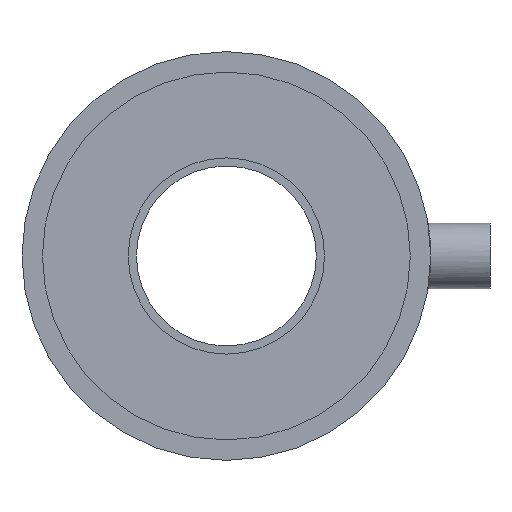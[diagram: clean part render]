
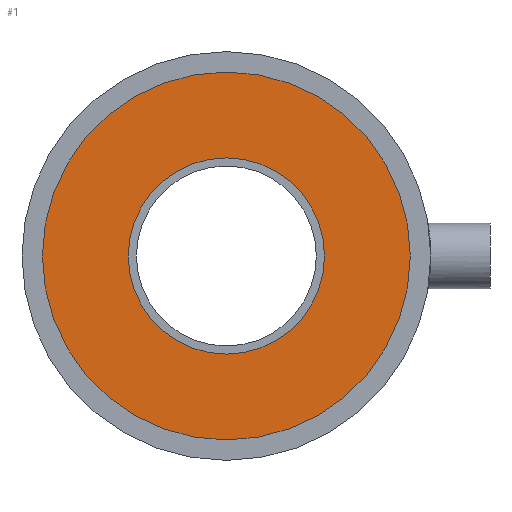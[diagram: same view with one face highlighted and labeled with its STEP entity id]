
A CAD part, front view. The second image highlights one B-rep face of the part: STEP entity #1.
In plain terms, the highlighted planar face has unit normal (0, -1, 0).
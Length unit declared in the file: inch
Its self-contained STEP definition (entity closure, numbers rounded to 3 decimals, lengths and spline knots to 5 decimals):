
#1 = ADVANCED_FACE ( 'NONE', ( #456, #472 ), #79, .T. ) ;
#44 = DIRECTION ( 'NONE',  ( 0., -1., 0. ) ) ;
#52 = DIRECTION ( 'NONE',  ( 0., 0., -1. ) ) ;
#53 = VERTEX_POINT ( 'NONE', #149 ) ;
#55 = VERTEX_POINT ( 'NONE', #150 ) ;
#64 = VERTEX_POINT ( 'NONE', #177 ) ;
#79 = PLANE ( 'NONE',  #554 ) ;
#81 = VERTEX_POINT ( 'NONE', #140 ) ;
#82 = CARTESIAN_POINT ( 'NONE',  ( 0., 0.0231, 0. ) ) ;
#140 = CARTESIAN_POINT ( 'NONE',  ( 0., 0.0231, 0.9 ) ) ;
#149 = CARTESIAN_POINT ( 'NONE',  ( 0., 0.0231, -0.48 ) ) ;
#150 = CARTESIAN_POINT ( 'NONE',  ( 0., 0.0231, 0.48 ) ) ;
#165 = CARTESIAN_POINT ( 'NONE',  ( 0., 0.0231, 0. ) ) ;
#166 = DIRECTION ( 'NONE',  ( 0., -1., 0. ) ) ;
#168 = DIRECTION ( 'NONE',  ( 0., 0., -1. ) ) ;
#177 = CARTESIAN_POINT ( 'NONE',  ( 0., 0.0231, -0.9 ) ) ;
#217 = CARTESIAN_POINT ( 'NONE',  ( 0., 0.0231, 0. ) ) ;
#218 = DIRECTION ( 'NONE',  ( 0., -1., 0. ) ) ;
#220 = DIRECTION ( 'NONE',  ( 0., 0., -1. ) ) ;
#250 = CARTESIAN_POINT ( 'NONE',  ( 0., 0.0231, 0. ) ) ;
#261 = DIRECTION ( 'NONE',  ( 0., -1., 0. ) ) ;
#270 = CARTESIAN_POINT ( 'NONE',  ( 0., 0.0231, 0. ) ) ;
#280 = DIRECTION ( 'NONE',  ( 0., 0., -1. ) ) ;
#282 = DIRECTION ( 'NONE',  ( 0., 0., -1. ) ) ;
#284 = DIRECTION ( 'NONE',  ( 0., -1., 0. ) ) ;
#340 = CIRCLE ( 'NONE', #603, 0.48 ) ;
#367 = CIRCLE ( 'NONE', #626, 0.48 ) ;
#372 = CIRCLE ( 'NONE', #624, 0.9 ) ;
#374 = CIRCLE ( 'NONE', #615, 0.9 ) ;
#389 = ORIENTED_EDGE ( 'NONE', *, *, #565, .F. ) ;
#417 = ORIENTED_EDGE ( 'NONE', *, *, #558, .T. ) ;
#425 = EDGE_LOOP ( 'NONE', ( #434, #389 ) ) ;
#434 = ORIENTED_EDGE ( 'NONE', *, *, #547, .F. ) ;
#443 = ORIENTED_EDGE ( 'NONE', *, *, #560, .T. ) ;
#456 = FACE_BOUND ( 'NONE', #425, .T. ) ;
#472 = FACE_OUTER_BOUND ( 'NONE', #475, .T. ) ;
#475 = EDGE_LOOP ( 'NONE', ( #417, #443 ) ) ;
#547 = EDGE_CURVE ( 'NONE', #53, #55, #340, .T. ) ;
#554 = AXIS2_PLACEMENT_3D ( 'NONE', #82, #44, #52 ) ;
#558 = EDGE_CURVE ( 'NONE', #64, #81, #374, .T. ) ;
#560 = EDGE_CURVE ( 'NONE', #81, #64, #372, .T. ) ;
#565 = EDGE_CURVE ( 'NONE', #55, #53, #367, .T. ) ;
#603 = AXIS2_PLACEMENT_3D ( 'NONE', #165, #166, #168 ) ;
#615 = AXIS2_PLACEMENT_3D ( 'NONE', #217, #218, #220 ) ;
#624 = AXIS2_PLACEMENT_3D ( 'NONE', #250, #261, #280 ) ;
#626 = AXIS2_PLACEMENT_3D ( 'NONE', #270, #284, #282 ) ;
